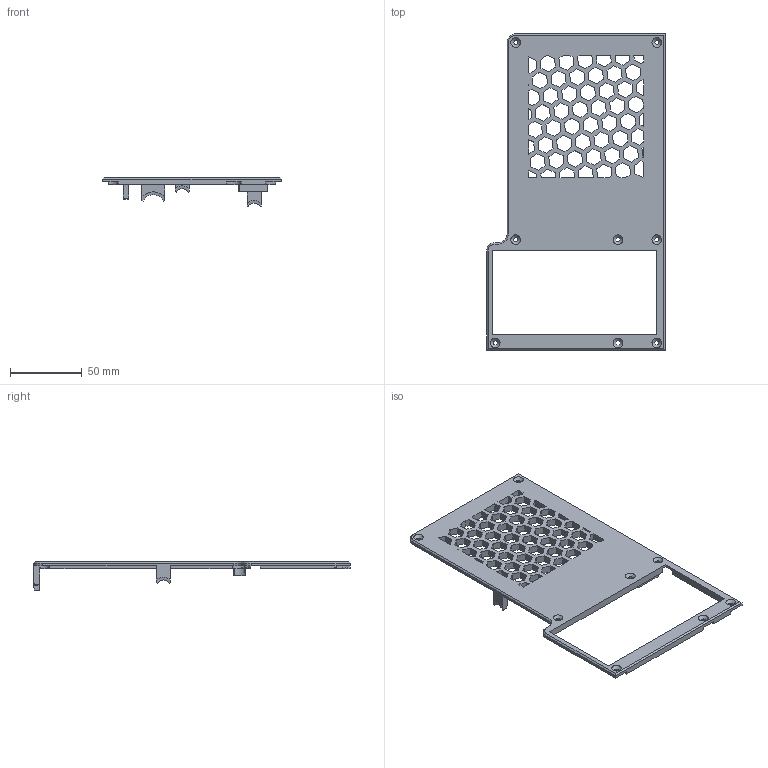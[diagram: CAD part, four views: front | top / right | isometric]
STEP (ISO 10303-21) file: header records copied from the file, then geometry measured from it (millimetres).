
FILE_DESCRIPTION( ( '' ), ' ' );
FILE_NAME( '/vol/tmp/translate-3907591270226327375/5e99b05637e6fe15d4c4a2d9.step', '2020-04-17T13:34:15', ( '' ), ( '' ), ' ', ' ', ' ' );
FILE_SCHEMA( ( 'AUTOMOTIVE_DESIGN { 1 0 10303 214 1 1 1 1 }' ) );
Length unit declared in the file: metre
Products named in the file (1): Part 4
Bounding box: 124.25 x 219.68 x 20.05 mm (x, y, z)
Volume: 67741.2 mm3; surface area: 44490.9 mm2
Topology: 1 solids, 1 shells, 474 faces, 1402 edges, 929 vertices
Faces by surface type: plane 409, cone 31, cylinder 24, bspline 10
Full cylindrical faces by diameter (mm): 3.1 x8
Entity records: 20456 total; most frequent: CARTESIAN_POINT 3947, ORIENTED_EDGE 2756, DIRECTION 2323, EDGE_CURVE 1378, LINE 1207, VECTOR 1207, VERTEX_POINT 921, EDGE_LOOP 619
